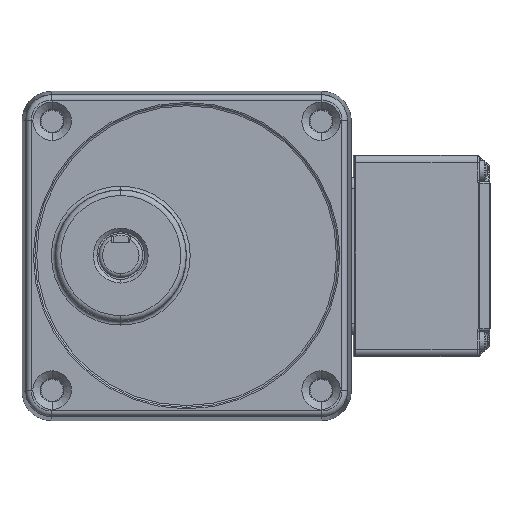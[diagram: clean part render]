
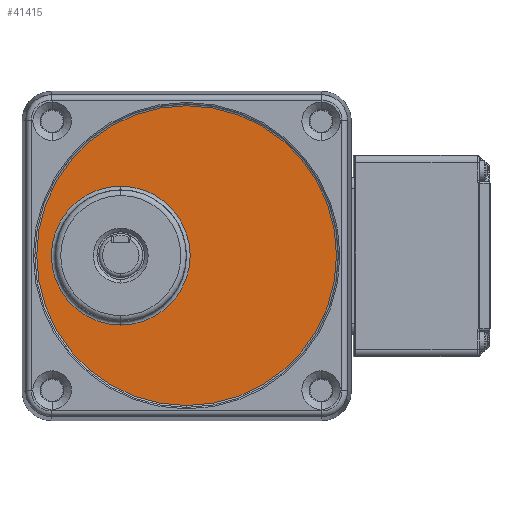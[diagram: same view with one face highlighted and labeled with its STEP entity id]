
A CAD part, top view. The second image highlights one B-rep face of the part: STEP entity #41415.
In plain terms, the highlighted planar face has unit normal (0, 0, 1) as drawn and (1, 0, 0) by its records, which use the part's own axes.
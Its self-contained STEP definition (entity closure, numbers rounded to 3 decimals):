
#56 = ORIENTED_EDGE ( 'NONE', *, *, #36400, .F. ) ;
#525 = PLANE ( 'NONE',  #10785 ) ;
#738 = VERTEX_POINT ( 'NONE', #33603 ) ;
#1757 = VERTEX_POINT ( 'NONE', #57674 ) ;
#4691 = DIRECTION ( 'NONE',  ( 0., 1., 0. ) ) ;
#7216 = CARTESIAN_POINT ( 'NONE',  ( 2697.792, -756.175, 18. ) ) ;
#7408 = CIRCLE ( 'NONE', #41111, 40.991 ) ;
#10785 = AXIS2_PLACEMENT_3D ( 'NONE', #48862, #40088, #52958 ) ;
#13090 = FACE_BOUND ( 'NONE', #13550, .T. ) ;
#13299 = DIRECTION ( 'NONE',  ( 0., -1., 0. ) ) ;
#13485 = DIRECTION ( 'NONE',  ( 1., 0., 0. ) ) ;
#13550 = EDGE_LOOP ( 'NONE', ( #39425, #17692 ) ) ;
#13914 = ORIENTED_EDGE ( 'NONE', *, *, #53722, .F. ) ;
#14539 = DIRECTION ( 'NONE',  ( 0., 1., 0. ) ) ;
#15318 = AXIS2_PLACEMENT_3D ( 'NONE', #26785, #44934, #13299 ) ;
#15655 = VERTEX_POINT ( 'NONE', #7216 ) ;
#17225 = EDGE_CURVE ( 'NONE', #738, #15655, #50895, .T. ) ;
#17269 = CARTESIAN_POINT ( 'NONE',  ( 2697.792, -775.157, 18. ) ) ;
#17692 = ORIENTED_EDGE ( 'NONE', *, *, #19531, .F. ) ;
#19483 = DIRECTION ( 'NONE',  ( -1., 0., 0. ) ) ;
#19531 = EDGE_CURVE ( 'NONE', #15655, #738, #43649, .T. ) ;
#22165 = FACE_OUTER_BOUND ( 'NONE', #39280, .T. ) ;
#26785 = CARTESIAN_POINT ( 'NONE',  ( 2697.792, -775.157, 18. ) ) ;
#27263 = CIRCLE ( 'NONE', #53450, 40.991 ) ;
#29962 = VERTEX_POINT ( 'NONE', #48129 ) ;
#33603 = CARTESIAN_POINT ( 'NONE',  ( 2697.792, -794.14, 18. ) ) ;
#36400 = EDGE_CURVE ( 'NONE', #29962, #1757, #27263, .T. ) ;
#36839 = CARTESIAN_POINT ( 'NONE',  ( 2697.792, -775.157, 0. ) ) ;
#39280 = EDGE_LOOP ( 'NONE', ( #13914, #56 ) ) ;
#39425 = ORIENTED_EDGE ( 'NONE', *, *, #17225, .F. ) ;
#40088 = DIRECTION ( 'NONE',  ( 1., 0., 0. ) ) ;
#41111 = AXIS2_PLACEMENT_3D ( 'NONE', #45023, #44152, #54102 ) ;
#41415 = ADVANCED_FACE ( 'NONE', ( #22165, #13090 ), #525, .T. ) ;
#43649 = CIRCLE ( 'NONE', #52071, 18.983 ) ;
#44152 = DIRECTION ( 'NONE',  ( -1., 0., 0. ) ) ;
#44934 = DIRECTION ( 'NONE',  ( 1., 0., 0. ) ) ;
#45023 = CARTESIAN_POINT ( 'NONE',  ( 2697.792, -775.157, 0. ) ) ;
#48129 = CARTESIAN_POINT ( 'NONE',  ( 2697.792, -734.166, 0. ) ) ;
#48862 = CARTESIAN_POINT ( 'NONE',  ( 2697.792, -775.157, 0. ) ) ;
#50895 = CIRCLE ( 'NONE', #15318, 18.983 ) ;
#52071 = AXIS2_PLACEMENT_3D ( 'NONE', #17269, #13485, #4691 ) ;
#52958 = DIRECTION ( 'NONE',  ( 0., 1., 0. ) ) ;
#53450 = AXIS2_PLACEMENT_3D ( 'NONE', #36839, #19483, #14539 ) ;
#53722 = EDGE_CURVE ( 'NONE', #1757, #29962, #7408, .T. ) ;
#54102 = DIRECTION ( 'NONE',  ( 0., -1., 0. ) ) ;
#57674 = CARTESIAN_POINT ( 'NONE',  ( 2697.792, -816.149, 0. ) ) ;
